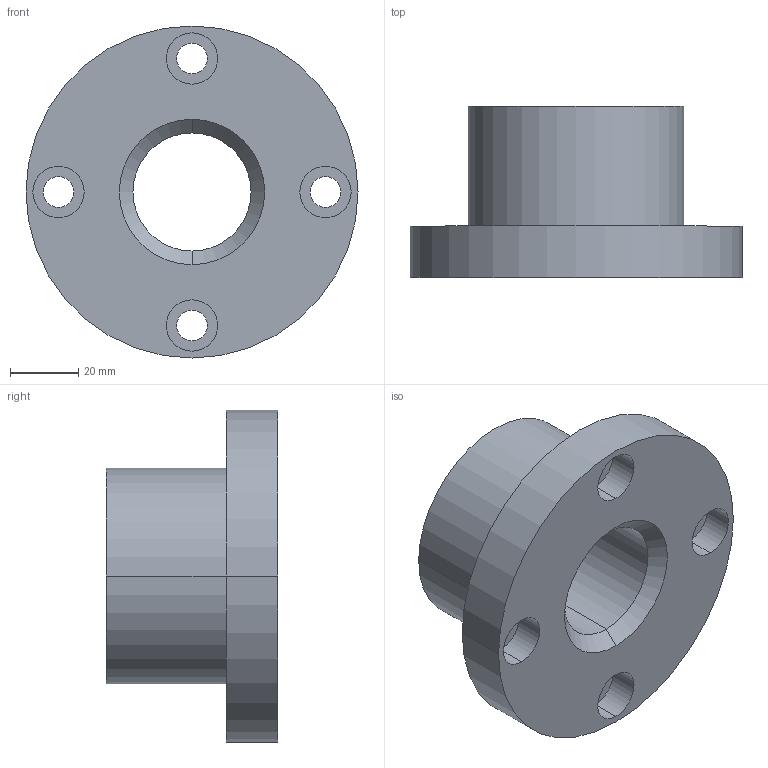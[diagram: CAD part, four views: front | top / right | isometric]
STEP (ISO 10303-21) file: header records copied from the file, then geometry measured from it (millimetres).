
FILE_DESCRIPTION (( 'STEP AP214' ), '1' );
FILE_NAME ('TH-42B.step', '2021-03-18T07:41:43', ( '' ), ( '' ), 'SwSTEP 2.0', 'SolidWorks 2019', '' );
FILE_SCHEMA (( 'AUTOMOTIVE_DESIGN' ));
Length unit declared in the file: millimetre
Products named in the file (2): TH-42B
Bounding box: 97 x 50 x 97 mm (x, y, z)
Volume: 163634 mm3; surface area: 31197.1 mm2
Topology: 1 solids, 1 shells, 33 faces, 74 edges, 48 vertices
Faces by surface type: cylinder 22, plane 7, cone 4
Entity records: 1013 total; most frequent: DIRECTION 192, CARTESIAN_POINT 157, ORIENTED_EDGE 148, AXIS2_PLACEMENT_3D 83, EDGE_CURVE 74, VERTEX_POINT 48, CIRCLE 48, EDGE_LOOP 48
